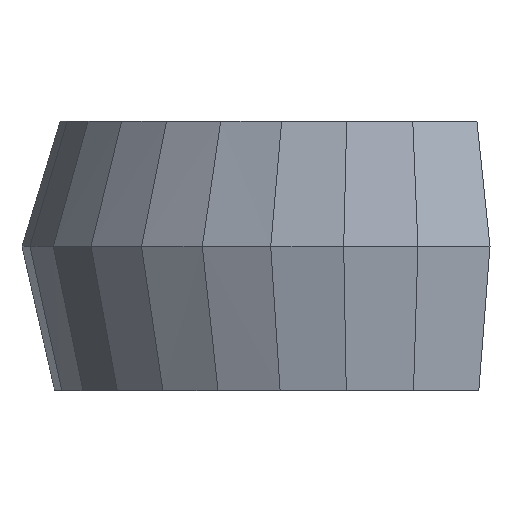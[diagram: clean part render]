
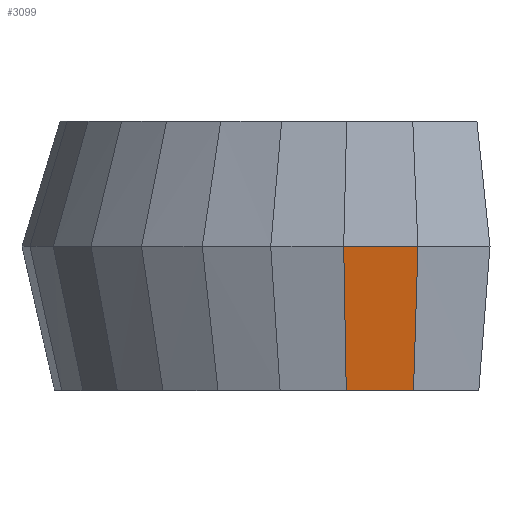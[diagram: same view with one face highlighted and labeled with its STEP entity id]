
A CAD part, front view. The second image highlights one B-rep face of the part: STEP entity #3099.
In plain terms, the highlighted free-form (B-spline) face has degree [1, 1] with [2, 2] control points.
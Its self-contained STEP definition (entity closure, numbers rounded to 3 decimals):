
#56 = VERTEX_POINT('',#57);
#57 = CARTESIAN_POINT('',(-7.678,-116.914,-64.));
#70 = B_SPLINE_SURFACE_WITH_KNOTS('',1,1,(
    (#71,#72)
    ,(#73,#74
    )),.UNSPECIFIED.,.F.,.F.,.F.,(2,2),(2,2),(0.,27.251),(0.,1.
    ),.PIECEWISE_BEZIER_KNOTS.);
#71 = CARTESIAN_POINT('',(-9.572,-107.997,-18.));
#72 = CARTESIAN_POINT('',(-7.678,-116.914,-64.));
#73 = CARTESIAN_POINT('',(-33.834,-108.672,-18.));
#74 = CARTESIAN_POINT('',(-34.919,-117.645,-64.));
#98 = B_SPLINE_SURFACE_WITH_KNOTS('',1,1,(
    (#99,#100)
    ,(#101,#102
    )),.UNSPECIFIED.,.F.,.F.,.F.,(2,2),(2,2),(0.,27.135),(0.,1.
    ),.PIECEWISE_BEZIER_KNOTS.);
#99 = CARTESIAN_POINT('',(18.779,-110.884,-64.));
#100 = CARTESIAN_POINT('',(14.674,-103.366,-117.));
#101 = CARTESIAN_POINT('',(-7.678,-116.914,-64.));
#102 = CARTESIAN_POINT('',(-9.302,-108.988,-117.));
#161 = VERTEX_POINT('',#162);
#162 = CARTESIAN_POINT('',(-34.919,-117.645,-64.));
#187 = EDGE_CURVE('',#56,#161,#188,.T.);
#188 = SURFACE_CURVE('',#189,(#193,#200),.PCURVE_S1.);
#189 = LINE('',#190,#191);
#190 = CARTESIAN_POINT('',(-7.678,-116.914,-64.));
#191 = VECTOR('',#192,1.);
#192 = DIRECTION('',(-1.,-0.027,0.));
#193 = PCURVE('',#70,#194);
#194 = DEFINITIONAL_REPRESENTATION('',(#195),#199);
#195 = LINE('',#196,#197);
#196 = CARTESIAN_POINT('',(0.,1.));
#197 = VECTOR('',#198,1.);
#198 = DIRECTION('',(1.,0.));
#199 = ( GEOMETRIC_REPRESENTATION_CONTEXT(2) 
PARAMETRIC_REPRESENTATION_CONTEXT() REPRESENTATION_CONTEXT('2D SPACE',''
  ) );
#200 = PCURVE('',#201,#206);
#201 = B_SPLINE_SURFACE_WITH_KNOTS('',1,1,(
    (#202,#203)
    ,(#204,#205
    )),.UNSPECIFIED.,.F.,.F.,.F.,(2,2),(2,2),(0.,27.251),(0.,1.
    ),.PIECEWISE_BEZIER_KNOTS.);
#202 = CARTESIAN_POINT('',(-7.678,-116.914,-64.));
#203 = CARTESIAN_POINT('',(-9.302,-108.988,-117.));
#204 = CARTESIAN_POINT('',(-34.919,-117.645,-64.));
#205 = CARTESIAN_POINT('',(-33.989,-109.669,-117.));
#206 = DEFINITIONAL_REPRESENTATION('',(#207),#211);
#207 = LINE('',#208,#209);
#208 = CARTESIAN_POINT('',(0.,0.));
#209 = VECTOR('',#210,1.);
#210 = DIRECTION('',(1.,0.));
#211 = ( GEOMETRIC_REPRESENTATION_CONTEXT(2) 
PARAMETRIC_REPRESENTATION_CONTEXT() REPRESENTATION_CONTEXT('2D SPACE',''
  ) );
#280 = B_SPLINE_SURFACE_WITH_KNOTS('',1,1,(
    (#281,#282)
    ,(#283,#284
    )),.UNSPECIFIED.,.F.,.F.,.F.,(2,2),(2,2),(0.,27.184),(0.,1.
    ),.PIECEWISE_BEZIER_KNOTS.);
#281 = CARTESIAN_POINT('',(-34.919,-117.645,-64.));
#282 = CARTESIAN_POINT('',(-33.989,-109.669,-117.));
#283 = CARTESIAN_POINT('',(-61.711,-113.043,-64.));
#284 = CARTESIAN_POINT('',(-58.269,-105.379,-117.));
#3031 = EDGE_CURVE('',#56,#3032,#3034,.T.);
#3032 = VERTEX_POINT('',#3033);
#3033 = CARTESIAN_POINT('',(-9.302,-108.988,-117.));
#3034 = SURFACE_CURVE('',#3035,(#3038,#3045),.PCURVE_S1.);
#3035 = B_SPLINE_CURVE_WITH_KNOTS('',1,(#3036,#3037),.UNSPECIFIED.,.F.,
  .F.,(2,2),(0.,1.),.PIECEWISE_BEZIER_KNOTS.);
#3036 = CARTESIAN_POINT('',(-7.678,-116.914,-64.));
#3037 = CARTESIAN_POINT('',(-9.302,-108.988,-117.));
#3038 = PCURVE('',#98,#3039);
#3039 = DEFINITIONAL_REPRESENTATION('',(#3040),#3044);
#3040 = LINE('',#3041,#3042);
#3041 = CARTESIAN_POINT('',(27.135,0.));
#3042 = VECTOR('',#3043,1.);
#3043 = DIRECTION('',(0.,1.));
#3044 = ( GEOMETRIC_REPRESENTATION_CONTEXT(2) 
PARAMETRIC_REPRESENTATION_CONTEXT() REPRESENTATION_CONTEXT('2D SPACE',''
  ) );
#3045 = PCURVE('',#201,#3046);
#3046 = DEFINITIONAL_REPRESENTATION('',(#3047),#3051);
#3047 = LINE('',#3048,#3049);
#3048 = CARTESIAN_POINT('',(0.,0.));
#3049 = VECTOR('',#3050,1.);
#3050 = DIRECTION('',(0.,1.));
#3051 = ( GEOMETRIC_REPRESENTATION_CONTEXT(2) 
PARAMETRIC_REPRESENTATION_CONTEXT() REPRESENTATION_CONTEXT('2D SPACE',''
  ) );
#3068 = PLANE('',#3069);
#3069 = AXIS2_PLACEMENT_3D('',#3070,#3071,#3072);
#3070 = CARTESIAN_POINT('',(14.674,-103.366,-117.));
#3071 = DIRECTION('',(0.,0.,1.));
#3072 = DIRECTION('',(-0.432,0.902,0.));
#3099 = ADVANCED_FACE('',(#3100),#201,.T.);
#3100 = FACE_BOUND('',#3101,.T.);
#3101 = EDGE_LOOP('',(#3102,#3103,#3125,#3145));
#3102 = ORIENTED_EDGE('',*,*,#187,.T.);
#3103 = ORIENTED_EDGE('',*,*,#3104,.T.);
#3104 = EDGE_CURVE('',#161,#3105,#3107,.T.);
#3105 = VERTEX_POINT('',#3106);
#3106 = CARTESIAN_POINT('',(-33.989,-109.669,-117.));
#3107 = SURFACE_CURVE('',#3108,(#3111,#3118),.PCURVE_S1.);
#3108 = B_SPLINE_CURVE_WITH_KNOTS('',1,(#3109,#3110),.UNSPECIFIED.,.F.,
  .F.,(2,2),(0.,1.),.PIECEWISE_BEZIER_KNOTS.);
#3109 = CARTESIAN_POINT('',(-34.919,-117.645,-64.));
#3110 = CARTESIAN_POINT('',(-33.989,-109.669,-117.));
#3111 = PCURVE('',#201,#3112);
#3112 = DEFINITIONAL_REPRESENTATION('',(#3113),#3117);
#3113 = LINE('',#3114,#3115);
#3114 = CARTESIAN_POINT('',(27.251,0.));
#3115 = VECTOR('',#3116,1.);
#3116 = DIRECTION('',(0.,1.));
#3117 = ( GEOMETRIC_REPRESENTATION_CONTEXT(2) 
PARAMETRIC_REPRESENTATION_CONTEXT() REPRESENTATION_CONTEXT('2D SPACE',''
  ) );
#3118 = PCURVE('',#280,#3119);
#3119 = DEFINITIONAL_REPRESENTATION('',(#3120),#3124);
#3120 = LINE('',#3121,#3122);
#3121 = CARTESIAN_POINT('',(0.,0.));
#3122 = VECTOR('',#3123,1.);
#3123 = DIRECTION('',(0.,1.));
#3124 = ( GEOMETRIC_REPRESENTATION_CONTEXT(2) 
PARAMETRIC_REPRESENTATION_CONTEXT() REPRESENTATION_CONTEXT('2D SPACE',''
  ) );
#3125 = ORIENTED_EDGE('',*,*,#3126,.F.);
#3126 = EDGE_CURVE('',#3032,#3105,#3127,.T.);
#3127 = SURFACE_CURVE('',#3128,(#3132,#3138),.PCURVE_S1.);
#3128 = LINE('',#3129,#3130);
#3129 = CARTESIAN_POINT('',(-9.302,-108.988,-117.));
#3130 = VECTOR('',#3131,1.);
#3131 = DIRECTION('',(-1.,-0.028,0.));
#3132 = PCURVE('',#201,#3133);
#3133 = DEFINITIONAL_REPRESENTATION('',(#3134),#3137);
#3134 = B_SPLINE_CURVE_WITH_KNOTS('',1,(#3135,#3136),.UNSPECIFIED.,.F.,
  .F.,(2,2),(0.,24.697),.PIECEWISE_BEZIER_KNOTS.);
#3135 = CARTESIAN_POINT('',(0.,1.));
#3136 = CARTESIAN_POINT('',(27.251,1.));
#3137 = ( GEOMETRIC_REPRESENTATION_CONTEXT(2) 
PARAMETRIC_REPRESENTATION_CONTEXT() REPRESENTATION_CONTEXT('2D SPACE',''
  ) );
#3138 = PCURVE('',#3068,#3139);
#3139 = DEFINITIONAL_REPRESENTATION('',(#3140),#3144);
#3140 = LINE('',#3141,#3142);
#3141 = CARTESIAN_POINT('',(5.294,24.05));
#3142 = VECTOR('',#3143,1.);
#3143 = DIRECTION('',(0.407,0.913));
#3144 = ( GEOMETRIC_REPRESENTATION_CONTEXT(2) 
PARAMETRIC_REPRESENTATION_CONTEXT() REPRESENTATION_CONTEXT('2D SPACE',''
  ) );
#3145 = ORIENTED_EDGE('',*,*,#3031,.F.);
